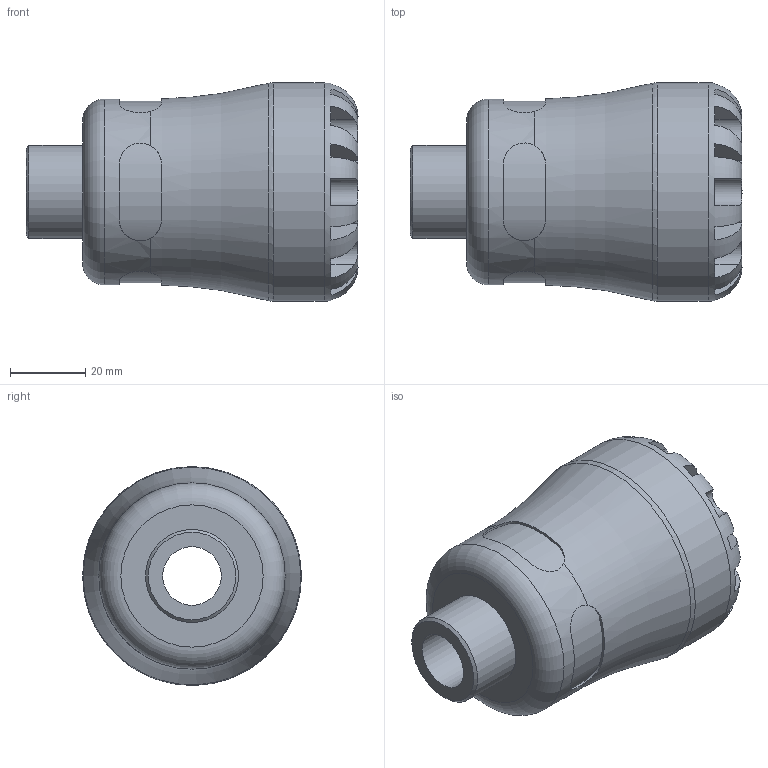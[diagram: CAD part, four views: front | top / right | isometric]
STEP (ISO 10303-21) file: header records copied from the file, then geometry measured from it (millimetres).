
FILE_DESCRIPTION(/* description */ ('PLASSON MALE INTEGRAL BRASS THREAD 32X3/4" SERIES 1'),/* implementation_level */ '2;1');
FILE_NAME(/* name */ 'C:\Dropbox\KIMPROJECTS-Inventor\99-16-3568-Processing\1072\107200032007_197200032007.ipt.stp',/* time_stamp */ '2017-01-22T10:48:51+02:00',/* author */ ('KIM'),/* organization */ (''),/* preprocessor_version */ 'ST-DEVELOPER v15.6',/* originating_system */ 'Autodesk Inventor 2015',/* authorisation */ '');
FILE_SCHEMA (('AUTOMOTIVE_DESIGN { 1 0 10303 214 3 1 1 }'));
Length unit declared in the file: millimetre
Products named in the file (1): 107200032007_197200032007
Bounding box: 88 x 58 x 58 mm (x, y, z)
Volume: 112448.2 mm3; surface area: 25249.2 mm2
Topology: 1 solids, 1 shells, 99 faces, 255 edges, 160 vertices
Faces by surface type: plane 60, cylinder 33, torus 4, cone 2
Full cylindrical faces by diameter (mm): 15.515 x1, 24.658 x1, 32 x1, 49.3 x1, 58 x1
Entity records: 3869 total; most frequent: CARTESIAN_POINT 1468, ORIENTED_EDGE 482, DIRECTION 458, EDGE_CURVE 241, AXIS2_PLACEMENT_3D 189, VERTEX_POINT 157, EDGE_LOOP 114, STYLED_ITEM 100
